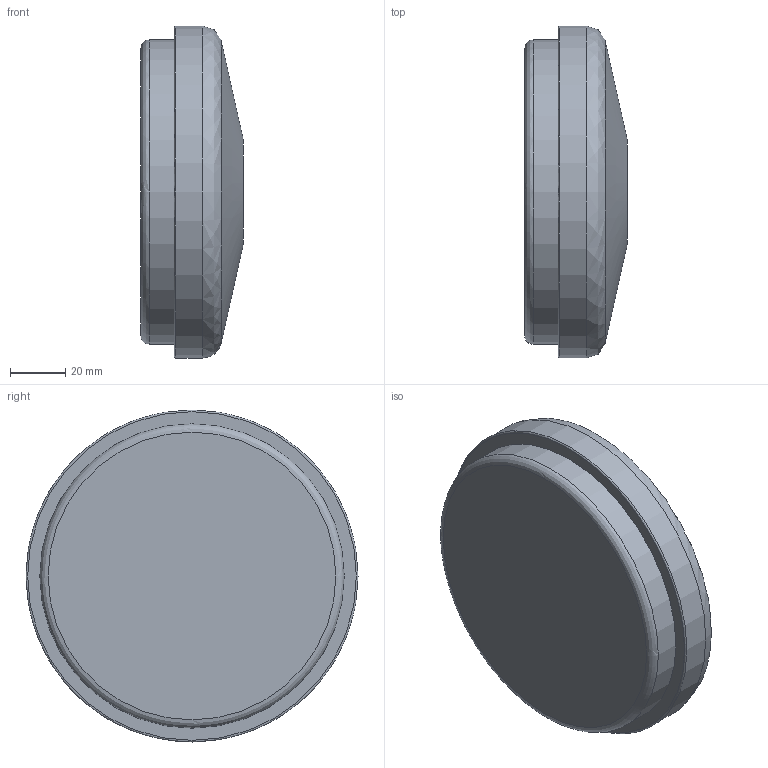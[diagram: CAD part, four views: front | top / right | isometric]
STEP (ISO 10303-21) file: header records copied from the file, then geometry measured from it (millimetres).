
FILE_DESCRIPTION(('STEP AP203'),'2;1');
FILE_NAME('13080Z.stp','2017-02-16T10:59:09',(''),(''),'2008.1.107','THINKDESIGN','');
FILE_SCHEMA(('CONFIG_CONTROL_DESIGN'));
Length unit declared in the file: millimetre
Bounding box: 37 x 120 x 120 mm (x, y, z)
Volume: 342464.3 mm3; surface area: 55738.3 mm2
Topology: 2 solids, 2 shells, 18 faces, 46 edges, 35 vertices
Faces by surface type: bspline 8, plane 6, cylinder 4
Full cylindrical faces by diameter (mm): 11 x1, 36 x1, 110 x1, 120 x1
Entity records: 1153 total; most frequent: CARTESIAN_POINT 516, DIRECTION 102, ORIENTED_EDGE 88, AXIS2_PLACEMENT_3D 47, EDGE_CURVE 44, CIRCLE 37, VERTEX_POINT 33, EDGE_LOOP 21
